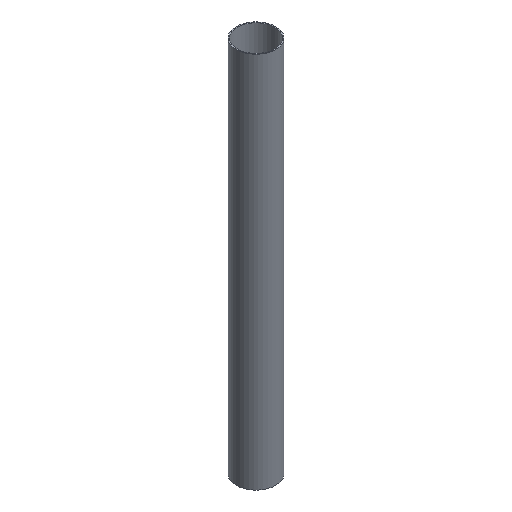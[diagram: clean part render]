
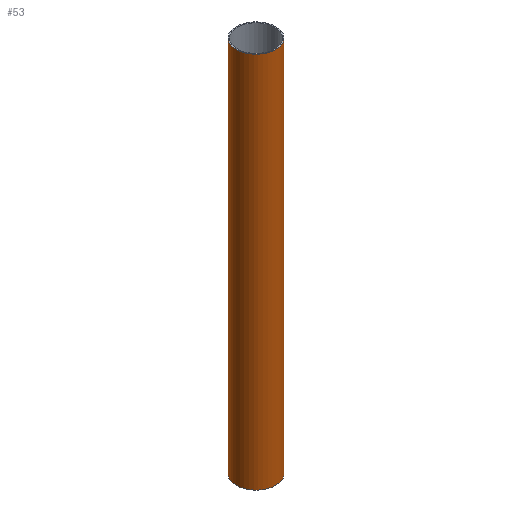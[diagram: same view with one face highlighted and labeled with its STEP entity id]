
A CAD part, isometric view. The second image highlights one B-rep face of the part: STEP entity #53.
In plain terms, the highlighted cylindrical face has radius 40 mm (diameter 80 mm), a full revolution.
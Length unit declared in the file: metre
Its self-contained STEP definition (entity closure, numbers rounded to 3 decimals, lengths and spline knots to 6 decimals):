
#16=ORIENTED_EDGE('',*,*,#24,.F.);
#17=ORIENTED_EDGE('',*,*,#25,.T.);
#24=EDGE_CURVE('',#28,#28,#32,.T.);
#25=EDGE_CURVE('',#29,#29,#33,.T.);
#28=VERTEX_POINT('',#105);
#29=VERTEX_POINT('',#107);
#32=CIRCLE('',#75,0.04);
#33=CIRCLE('',#76,0.04);
#36=EDGE_LOOP('',(#16));
#37=EDGE_LOOP('',(#17));
#44=FACE_BOUND('',#36,.T.);
#45=FACE_BOUND('',#37,.T.);
#51=CYLINDRICAL_SURFACE('',#74,0.04);
#53=ADVANCED_FACE('',(#44,#45),#51,.T.);
#74=AXIS2_PLACEMENT_3D('',#103,#87,#88);
#75=AXIS2_PLACEMENT_3D('',#104,#89,#90);
#76=AXIS2_PLACEMENT_3D('',#106,#91,#92);
#87=DIRECTION('',(0.,0.,-1.));
#88=DIRECTION('',(-1.,0.,0.));
#89=DIRECTION('',(0.,0.,1.));
#90=DIRECTION('',(1.,0.,0.));
#91=DIRECTION('',(0.,0.,1.));
#92=DIRECTION('',(1.,0.,0.));
#103=CARTESIAN_POINT('',(0.,0.,0.762));
#104=CARTESIAN_POINT('',(0.,0.,0.762));
#105=CARTESIAN_POINT('',(0.04,0.,0.762));
#106=CARTESIAN_POINT('',(0.,0.,0.));
#107=CARTESIAN_POINT('',(0.04,0.,0.));
